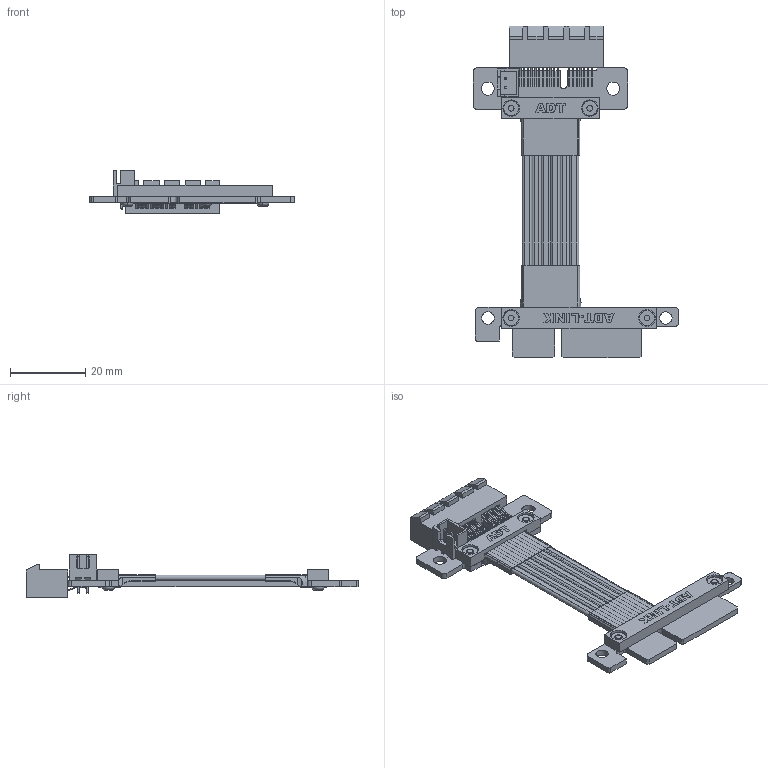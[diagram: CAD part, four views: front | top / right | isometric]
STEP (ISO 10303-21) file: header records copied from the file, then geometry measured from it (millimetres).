
FILE_DESCRIPTION(('Open CASCADE Model'),'2;1');
FILE_NAME('Open CASCADE Shape Model','2021-08-14T15:16:27',('Author'),( 'Open CASCADE'),'Open CASCADE STEP processor 6.8','Open CASCADE 6.8' ,'Unknown');
FILE_SCHEMA(('AUTOMOTIVE_DESIGN { 1 0 10303 214 1 1 1 1 }'));
Length unit declared in the file: millimetre
Products named in the file (106): PCB; Board; Open CASCADE STEP translator 6.8 7.1.1; Designator64; JST_2pin; Free-Models; G0033_RGB9411503; R1SPAD4; Hexagon_nut_ISO_4032_(DIN_934)_-_M2_RGB9411503; Tape14x5_RGB0; DP5A-8T_窪伎_4.0_RGB2960685; pcie_x1_sf; R11SL-TL_4.0___Heat_shrink_tube_RGB3947580; Tape28x5_RGB0; R2SPAD4
Assembly tree (116 placements, depth 3):
  PCB
    Board
      Open CASCADE STEP translator 6.8 7.1.1
    Designator64
      JST_2pin
    Free-Models
      G0033_RGB9411503  x4
      R1SPAD4
      R1SPAD4
      R1SPAD4
      R1SPAD4
      Hexagon_nut_ISO_4032_(DIN_934)_-_M2_RGB9411503  x4
      Tape14x5_RGB0  x2
      DP5A-8T_窪伎_4.0_RGB2960685
      DP5A-8T_窪伎_4.0_RGB2960685
      DP5A-8T_窪伎_4.0_RGB2960685
      DP5A-8T_窪伎_4.0_RGB2960685
      DP5A-8T_窪伎_4.0_RGB2960685
      DP5A-8T_窪伎_4.0_RGB2960685
      DP5A-8T_窪伎_4.0_RGB2960685
      DP5A-8T_窪伎_4.0_RGB2960685
      DP5A-8T_窪伎_4.0_RGB2960685
      DP5A-8T_窪伎_4.0_RGB2960685
      DP5A-8T_窪伎_4.0_RGB2960685
      DP5A-8T_窪伎_4.0_RGB2960685
      DP5A-8T_窪伎_4.0_RGB2960685
      DP5A-8T_窪伎_4.0_RGB2960685
      DP5A-8T_窪伎_4.0_RGB2960685
      DP5A-8T_窪伎_4.0_RGB2960685
      DP5A-8T_窪伎_4.0_RGB2960685
      DP5A-8T_窪伎_4.0_RGB2960685
      DP5A-8T_窪伎_4.0_RGB2960685
      DP5A-8T_窪伎_4.0_RGB2960685
      DP5A-8T_窪伎_4.0_RGB2960685
      DP5A-8T_窪伎_4.0_RGB2960685
      DP5A-8T_窪伎_4.0_RGB2960685
      DP5A-8T_窪伎_4.0_RGB2960685
      DP5A-8T_窪伎_4.0_RGB2960685
      DP5A-8T_窪伎_4.0_RGB2960685
      DP5A-8T_窪伎_4.0_RGB2960685
      DP5A-8T_窪伎_4.0_RGB2960685
      DP5A-8T_窪伎_4.0_RGB2960685
      DP5A-8T_窪伎_4.0_RGB2960685
      DP5A-8T_窪伎_4.0_RGB2960685
      DP5A-8T_窪伎_4.0_RGB2960685
      DP5A-8T_窪伎_4.0_RGB2960685
      DP5A-8T_窪伎_4.0_RGB2960685
      DP5A-8T_窪伎_4.0_RGB2960685
      DP5A-8T_窪伎_4.0_RGB2960685
      DP5A-8T_窪伎_4.0_RGB2960685
      DP5A-8T_窪伎_4.0_RGB2960685
      DP5A-8T_窪伎_4.0_RGB2960685
      DP5A-8T_窪伎_4.0_RGB2960685
      DP5A-8T_窪伎_4.0_RGB2960685
      DP5A-8T_窪伎_4.0_RGB2960685
      DP5A-8T_窪伎_4.0_RGB2960685
      DP5A-8T_窪伎_4.0_RGB2960685
      DP5A-8T_窪伎_4.0_RGB2960685
      DP5A-8T_窪伎_4.0_RGB2960685
      DP5A-8T_窪伎_4.0_RGB2960685
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Bounding box: 54.6 x 88.28 x 11.4 mm (x, y, z)
Volume: 7889 mm3; surface area: 29654.6 mm2
Topology: 113 solids, 113 shells, 5652 faces, 16679 edges, 11058 vertices
Faces by surface type: plane 3847, cylinder 1664, cone 48, torus 47, bspline 28, extrusion 10, revolution 8
Full cylindrical faces by diameter (mm): 0.25 x58, 0.28 x60, 0.55 x24, 0.58 x48, 0.8 x12, 1.05 x2, 2.2 x7, 3.3 x2, 3.5 x2, 4.4 x4
Entity records: 169058 total; most frequent: CARTESIAN_POINT 24979, ORIENTED_EDGE 22998, DIRECTION 21680, EDGE_CURVE 11499, VECTOR 8816, LINE 8806, VERTEX_POINT 7620, AXIS2_PLACEMENT_3D 6431
